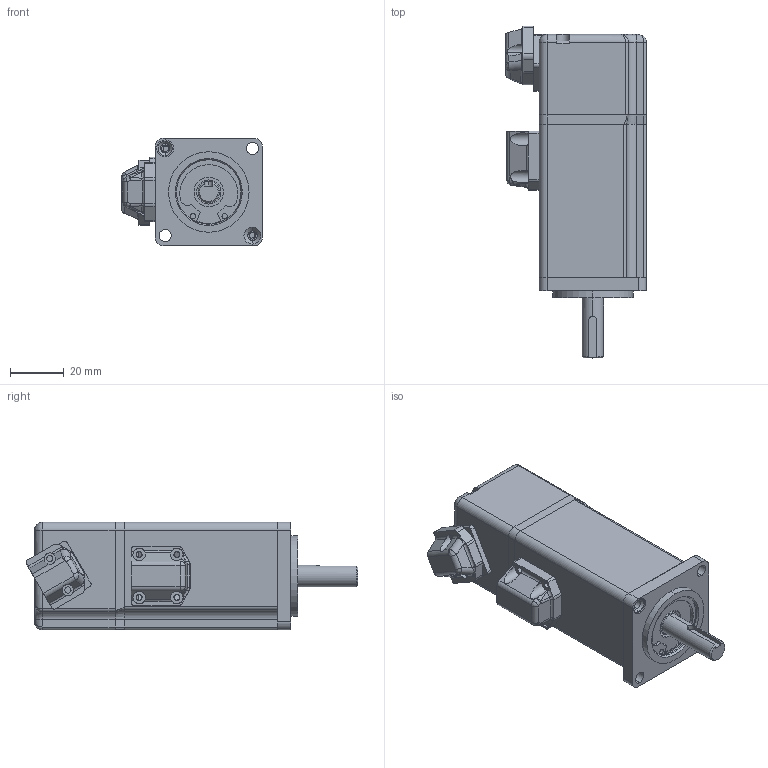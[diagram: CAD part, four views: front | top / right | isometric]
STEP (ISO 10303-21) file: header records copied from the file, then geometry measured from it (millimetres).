
FILE_DESCRIPTION (( 'STEP AP203' ), '1' );
FILE_NAME ('ASMD-04-0130B-G312X.STEP', '2020-12-22T01:06:04', ( 'Admin' ), ( '' ), 'SwSTEP 2.0', 'SolidWorks 2016', '' );
FILE_SCHEMA (( 'CONFIG_CONTROL_DESIGN' ));
Length unit declared in the file: millimetre
Products named in the file (2): ASMD-04-0130B-G312X
Bounding box: 52.5 x 123.66 x 40 mm (x, y, z)
Surface area: 30244.4 mm2 (no closed solid volume)
Topology: 0 solids, 13 shells, 314 faces, 962 edges, 654 vertices
Faces by surface type: cylinder 161, plane 112, bspline 19, cone 14, sphere 6, torus 2
Entity records: 11611 total; most frequent: CARTESIAN_POINT 2947, DIRECTION 1832, ORIENTED_EDGE 1661, EDGE_CURVE 954, AXIS2_PLACEMENT_3D 675, VERTEX_POINT 654, LINE 482, VECTOR 482
